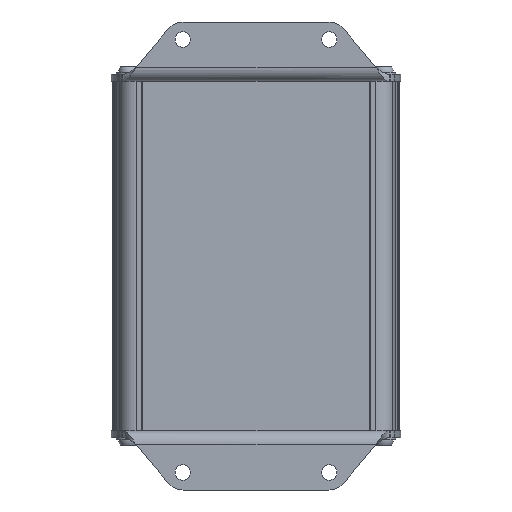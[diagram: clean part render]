
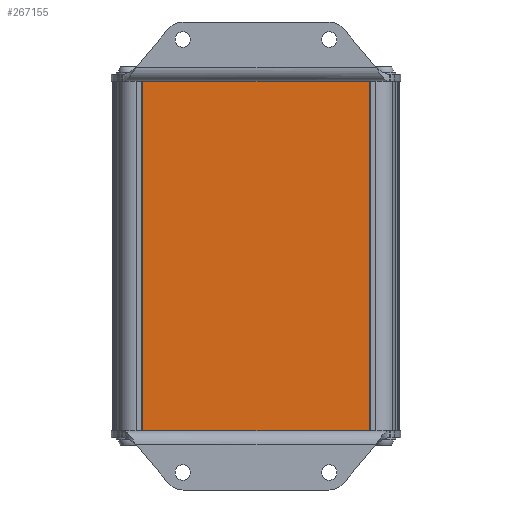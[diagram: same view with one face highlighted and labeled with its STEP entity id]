
A CAD part, front view. The second image highlights one B-rep face of the part: STEP entity #267155.
In plain terms, the highlighted planar face has unit normal (0, -1, 0).
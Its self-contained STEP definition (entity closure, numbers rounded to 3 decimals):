
#468=DIRECTION('',(-1.,0.,0.));
#469=VECTOR('',#468,65.);
#470=CARTESIAN_POINT('',(32.5,-11.725,-100.));
#471=LINE('',#470,#469);
#95081=DIRECTION('',(1.,0.,0.));
#95082=VECTOR('',#95081,65.);
#95083=CARTESIAN_POINT('',(-32.5,-11.725,0.));
#95084=LINE('',#95083,#95082);
#101386=DIRECTION('',(0.,0.,-1.));
#101387=VECTOR('',#101386,100.);
#101388=CARTESIAN_POINT('',(32.5,-11.725,0.));
#101389=LINE('',#101388,#101387);
#101393=DIRECTION('',(0.,0.,-1.));
#101394=VECTOR('',#101393,100.);
#101395=CARTESIAN_POINT('',(-32.5,-11.725,0.));
#101396=LINE('',#101395,#101394);
#101426=CARTESIAN_POINT('',(32.5,-11.725,0.));
#101427=VERTEX_POINT('',#101426);
#101428=CARTESIAN_POINT('',(32.5,-11.725,-100.));
#101429=VERTEX_POINT('',#101428);
#101430=CARTESIAN_POINT('',(-32.5,-11.725,0.));
#101431=VERTEX_POINT('',#101430);
#101432=CARTESIAN_POINT('',(-32.5,-11.725,-100.));
#101433=VERTEX_POINT('',#101432);
#267143=CARTESIAN_POINT('',(32.5,-11.725,-100.));
#267144=DIRECTION('',(0.,-1.,0.));
#267145=DIRECTION('',(0.,0.,-1.));
#267146=AXIS2_PLACEMENT_3D('',#267143,#267144,#267145);
#267147=PLANE('',#267146);
#267148=ORIENTED_EDGE('',*,*,#259576,.T.);
#267149=ORIENTED_EDGE('',*,*,#267131,.T.);
#267150=ORIENTED_EDGE('',*,*,#112923,.T.);
#267152=ORIENTED_EDGE('',*,*,#267151,.F.);
#267153=EDGE_LOOP('',(#267148,#267149,#267150,#267152));
#267154=FACE_OUTER_BOUND('',#267153,.F.);
#112923=EDGE_CURVE('',#101429,#101433,#471,.T.);
#259576=EDGE_CURVE('',#101431,#101427,#95084,.T.);
#267131=EDGE_CURVE('',#101427,#101429,#101389,.T.);
#267151=EDGE_CURVE('',#101431,#101433,#101396,.T.);
#267155=ADVANCED_FACE('',(#267154),#267147,.T.);
